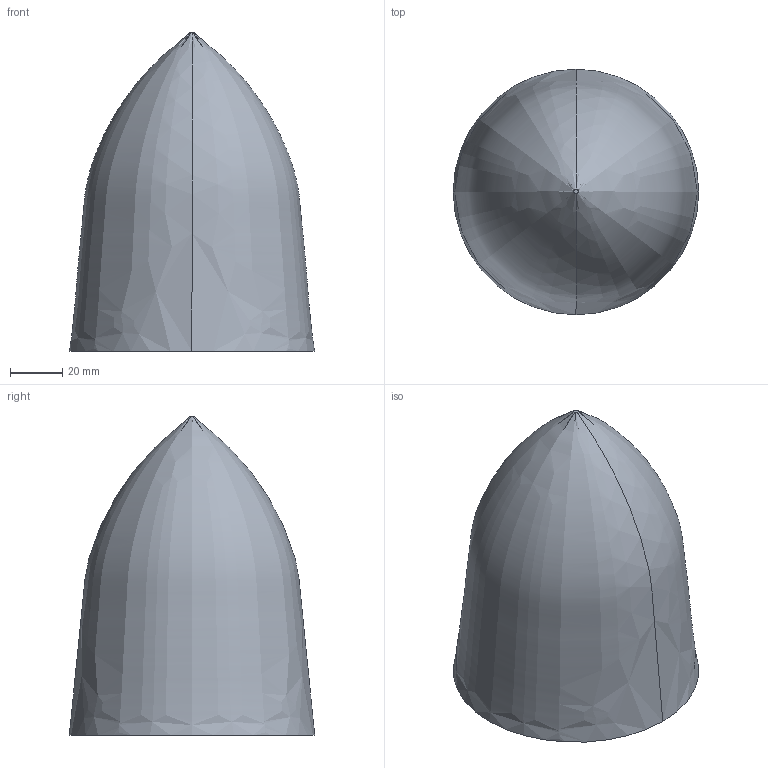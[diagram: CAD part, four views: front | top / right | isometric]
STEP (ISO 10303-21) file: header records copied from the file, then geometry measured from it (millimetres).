
FILE_DESCRIPTION (( 'STEP AP214' ), '1' );
FILE_NAME ('膧瀁螒2.STEP', '2024-12-11T12:52:05', ( '' ), ( '' ), 'SwSTEP 2.0', 'SolidWorks 2022', '' );
FILE_SCHEMA (( 'AUTOMOTIVE_DESIGN' ));
Length unit declared in the file: millimetre
Products named in the file (1): купол_2
Bounding box: 93.86 x 93.86 x 121.83 mm (x, y, z)
Volume: 19942.8 mm3; surface area: 56284.2 mm2
Topology: 1 solids, 1 shells, 8 faces, 18 edges, 12 vertices
Faces by surface type: bspline 4, cone 2, plane 2
Entity records: 5966 total; most frequent: CARTESIAN_POINT 5761, DIRECTION 36, ORIENTED_EDGE 36, EDGE_CURVE 18, AXIS2_PLACEMENT_3D 17, CIRCLE 12, VERTEX_POINT 12, ADVANCED_FACE 8
